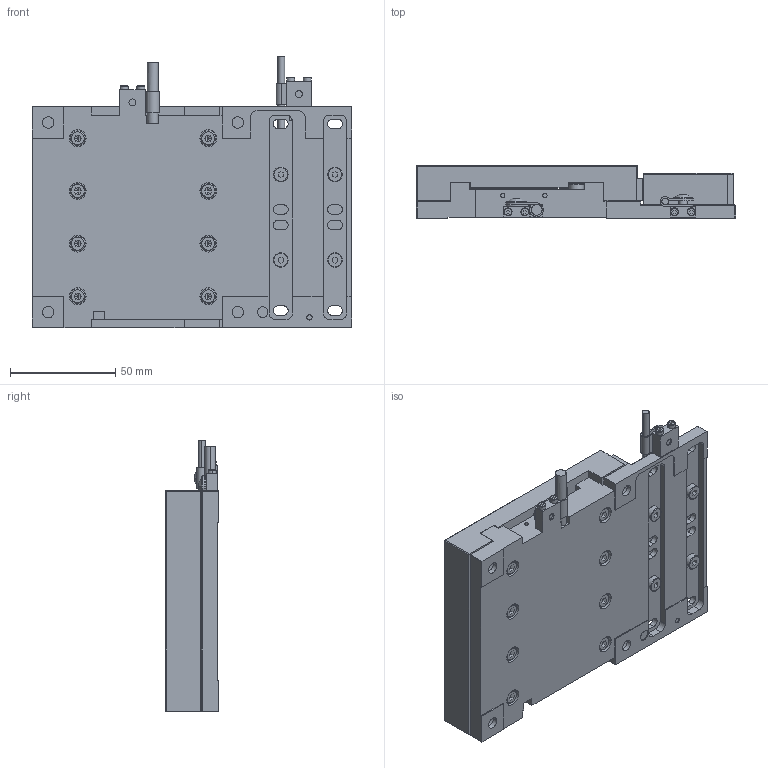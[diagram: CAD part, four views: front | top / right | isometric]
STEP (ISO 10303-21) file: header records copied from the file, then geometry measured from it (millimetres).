
FILE_DESCRIPTION((''),'2;1');
FILE_NAME('STM_MT105_362247_ASM','2022-05-18T08:51:22',('Seidel'),(''),'CREO PARAMETRIC BY PTC INC, 2021404','CREO PARAMETRIC BY PTC INC, 2021404','');
FILE_SCHEMA(('AUTOMOTIVE_DESIGN { 1 0 10303 214 1 1 1 1 }'));
Length unit declared in the file: millimetre
Products named in the file (5): STM_MT105_362248; AL_ALUMINIUM; STM_MT105_362249; STM_MT105_362247_ASM
Assembly tree (2 placements, depth 2):
  AL_ALUMINIUM
  AL_ALUMINIUM
  STM_MT105_362247_ASM
    STM_MT105_362248
    STM_MT105_362249
Bounding box: 151.5 x 25 x 129 mm (x, y, z)
Volume: 309204.9 mm3; surface area: 82033.1 mm2
Topology: 2 solids, 2 shells, 788 faces, 1830 edges, 1151 vertices
Faces by surface type: plane 523, cylinder 204, cone 43, torus 14, bspline 4
Entity records: 33537 total; most frequent: CARTESIAN_POINT 3927, DIRECTION 3915, ORIENTED_EDGE 3660, PRESENTATION_STYLE_ASSIGNMENT 2534, STYLED_ITEM 1832, CURVE_STYLE 1830, EDGE_CURVE 1830, VECTOR 1315
